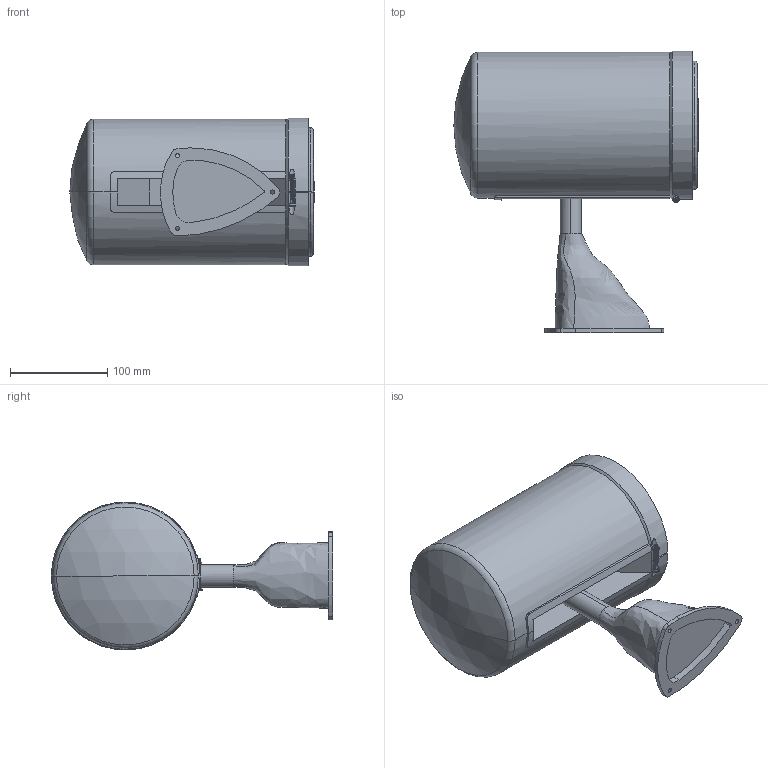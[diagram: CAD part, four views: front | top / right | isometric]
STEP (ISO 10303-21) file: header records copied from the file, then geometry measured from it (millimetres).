
FILE_DESCRIPTION (( 'STEP AP214' ), '1' );
FILE_NAME ('HLM-5M-RC.STEP', '2015-10-09T15:49:58', ( '' ), ( '' ), 'SwSTEP 2.0', 'SolidWorks 2015', '' );
FILE_SCHEMA (( 'AUTOMOTIVE_DESIGN' ));
Length unit declared in the file: inch
Products named in the file (4): binding head screw_ai_CR-BHMS 0.125-40x1.25x1-S; ML-5M-RC Light; ML-5M-RC Base; HLM-5M-RC
Assembly tree (3 placements, depth 2):
  HLM-5M-RC
    ML-5M-RC Base
    ML-5M-RC Light
    binding head screw_ai_CR-BHMS 0.125-40x1.25x1-S
Bounding box: 251.33 x 289.43 x 152.15 mm (x, y, z)
Volume: 4370390.8 mm3; surface area: 212368.2 mm2
Topology: 3 solids, 3 shells, 339 faces, 889 edges, 558 vertices
Faces by surface type: cone 166, cylinder 110, plane 41, bspline 12, sphere 6, torus 4
Entity records: 12123 total; most frequent: CARTESIAN_POINT 3267, DIRECTION 2022, ORIENTED_EDGE 1778, EDGE_CURVE 889, AXIS2_PLACEMENT_3D 840, VERTEX_POINT 558, CIRCLE 507, EDGE_LOOP 351
